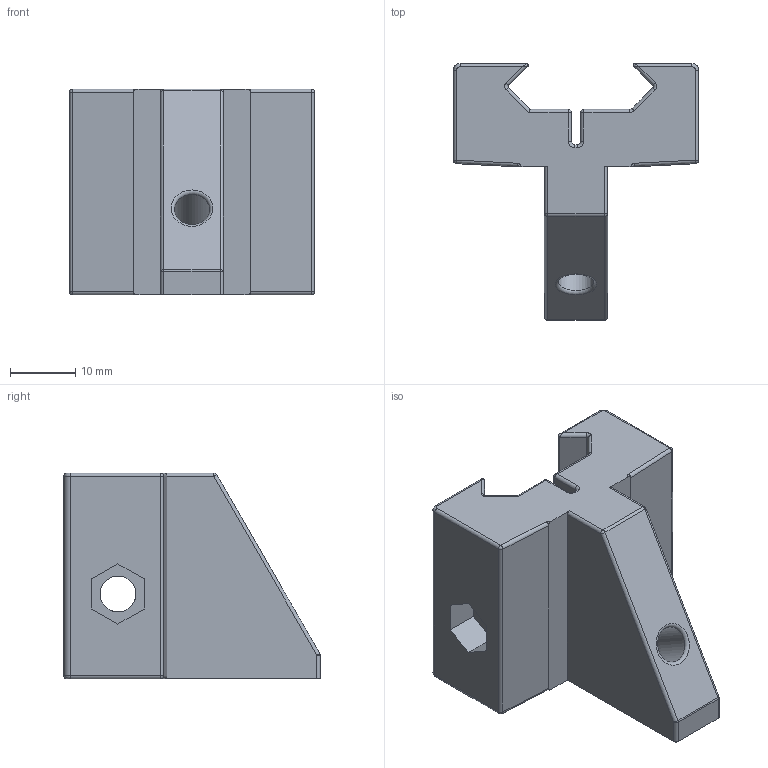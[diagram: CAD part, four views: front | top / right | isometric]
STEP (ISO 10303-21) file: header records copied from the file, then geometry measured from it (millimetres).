
FILE_DESCRIPTION(/* description */ (''),/* implementation_level */ '2;1');
FILE_NAME(/* name */ '//vboxsvr/bigsql-win-testing/CAD/ar15-foregrip-accessory-pack/STEP/foregrip-adapter-picc-freeman1337.step',/* time_stamp */ '2021-04-05T12:08:16-07:00',/* author */ (''),/* organization */ (''),/* preprocessor_version */ 'ST-DEVELOPER v18.1',/* originating_system */ 'Autodesk Translation Framework v9.10.0.1330',/* authorisation */ '');
FILE_SCHEMA (('AUTOMOTIVE_DESIGN { 1 0 10303 214 3 1 1 }'));
Length unit declared in the file: millimetre
Products named in the file (1): adapter-picc
Bounding box: 37.5 x 39.25 x 31.5 mm (x, y, z)
Volume: 17381.7 mm3; surface area: 7129.6 mm2
Topology: 1 solids, 1 shells, 130 faces, 307 edges, 172 vertices
Faces by surface type: cylinder 58, plane 34, torus 14, bspline 12, sphere 12
Full cylindrical faces by diameter (mm): 5.41 x1, 5.5 x2, 9.75 x1
Entity records: 3910 total; most frequent: CARTESIAN_POINT 894, DIRECTION 677, ORIENTED_EDGE 598, EDGE_CURVE 299, AXIS2_PLACEMENT_3D 265, VERTEX_POINT 172, LINE 147, VECTOR 147
